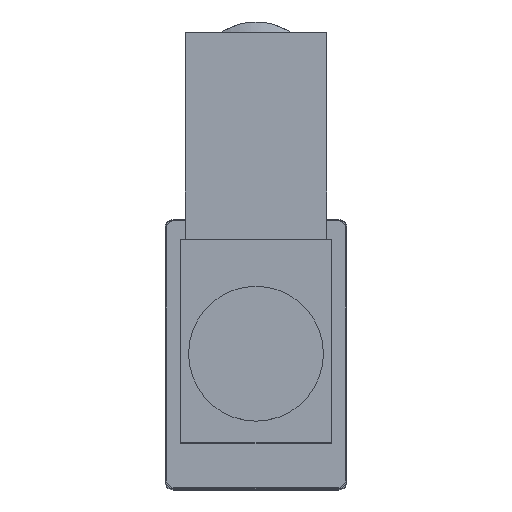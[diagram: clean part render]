
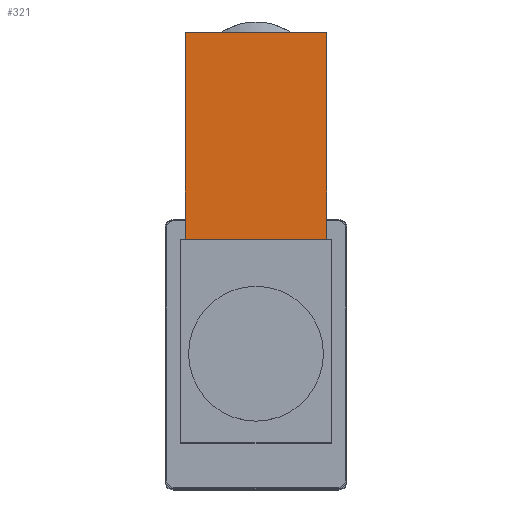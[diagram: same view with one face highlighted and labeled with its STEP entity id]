
A CAD part, top view. The second image highlights one B-rep face of the part: STEP entity #321.
In plain terms, the highlighted planar face has unit normal (0, 0, 1).
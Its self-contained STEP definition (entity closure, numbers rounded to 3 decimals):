
#321 = ADVANCED_FACE( '', ( #733 ), #734, .F. );
#733 = FACE_OUTER_BOUND( '', #1224, .T. );
#734 = PLANE( '', #1225 );
#1224 = EDGE_LOOP( '', ( #2070, #2071, #2072, #2073 ) );
#1225 = AXIS2_PLACEMENT_3D( '', #2074, #2075, #2076 );
#2070 = ORIENTED_EDGE( '', *, *, #2702, .F. );
#2071 = ORIENTED_EDGE( '', *, *, #2878, .F. );
#2072 = ORIENTED_EDGE( '', *, *, #2580, .F. );
#2073 = ORIENTED_EDGE( '', *, *, #2879, .T. );
#2074 = CARTESIAN_POINT( '', ( -10.5, 47.7, 55.5 ) );
#2075 = DIRECTION( '', ( 0., 0., -1. ) );
#2076 = DIRECTION( '', ( -1., 0., 0. ) );
#2580 = EDGE_CURVE( '', #3017, #3019, #3020, .T. );
#2702 = EDGE_CURVE( '', #3228, #3223, #3230, .T. );
#2878 = EDGE_CURVE( '', #3019, #3228, #3496, .T. );
#2879 = EDGE_CURVE( '', #3017, #3223, #3497, .T. );
#3017 = VERTEX_POINT( '', #3677 );
#3019 = VERTEX_POINT( '', #3680 );
#3020 = LINE( '', #3681, #3682 );
#3223 = VERTEX_POINT( '', #3938 );
#3228 = VERTEX_POINT( '', #3945 );
#3230 = LINE( '', #3948, #3949 );
#3496 = LINE( '', #4310, #4311 );
#3497 = LINE( '', #4312, #4313 );
#3677 = CARTESIAN_POINT( '', ( -10.5, 47.7, 55.5 ) );
#3680 = CARTESIAN_POINT( '', ( 10.5, 47.7, 55.5 ) );
#3681 = CARTESIAN_POINT( '', ( -10.5, 47.7, 55.5 ) );
#3682 = VECTOR( '', #4496, 1000. );
#3938 = CARTESIAN_POINT( '', ( -10.5, 17., 55.5 ) );
#3945 = CARTESIAN_POINT( '', ( 10.5, 17., 55.5 ) );
#3948 = CARTESIAN_POINT( '', ( 0., 17., 55.5 ) );
#3949 = VECTOR( '', #4676, 1000. );
#4310 = CARTESIAN_POINT( '', ( 10.5, 47.7, 55.5 ) );
#4311 = VECTOR( '', #4898, 1000. );
#4312 = CARTESIAN_POINT( '', ( -10.5, 47.7, 55.5 ) );
#4313 = VECTOR( '', #4899, 1000. );
#4496 = DIRECTION( '', ( 1., 0., 0. ) );
#4676 = DIRECTION( '', ( -1., 0., 0. ) );
#4898 = DIRECTION( '', ( 0., -1., 0. ) );
#4899 = DIRECTION( '', ( 0., -1., 0. ) );
